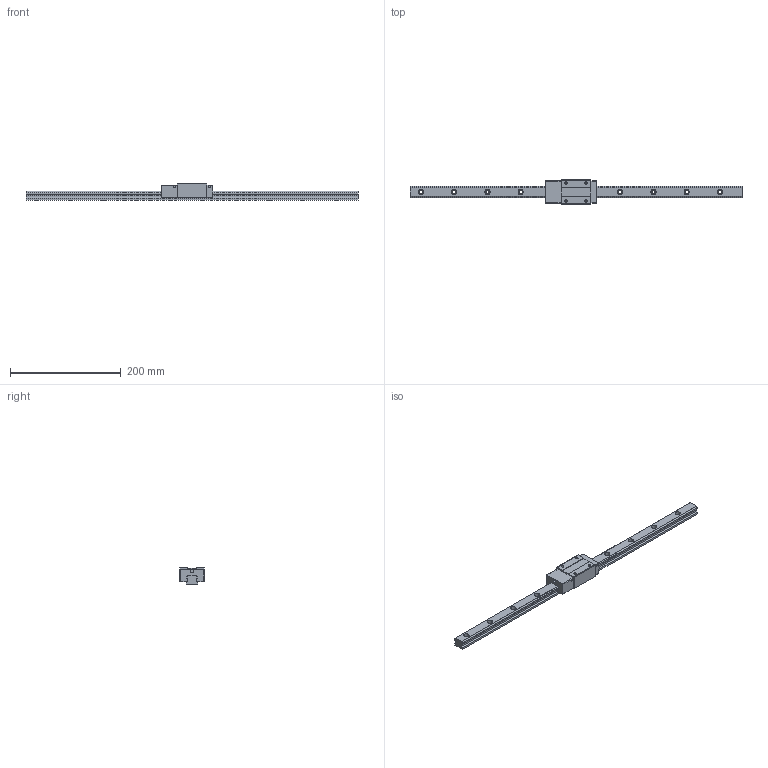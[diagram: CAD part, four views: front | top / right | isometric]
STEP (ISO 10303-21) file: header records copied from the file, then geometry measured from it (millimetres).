
FILE_DESCRIPTION (( 'STEP AP203' ), '1' );
FILE_NAME ('TRH20VN-BN.STEP', '2024-07-10T03:50:21', ( '' ), ( '' ), 'SwSTEP 2.0', 'SolidWorks 2022', '' );
FILE_SCHEMA (( 'CONFIG_CONTROL_DESIGN' ));
Length unit declared in the file: millimetre
Products named in the file (1): TRH20VN-BN
Bounding box: 600 x 44 x 30 mm (x, y, z)
Volume: 244070.1 mm3; surface area: 67065 mm2
Topology: 2 solids, 2 shells, 196 faces, 512 edges, 332 vertices
Faces by surface type: cylinder 96, plane 84, cone 16
Entity records: 6127 total; most frequent: DIRECTION 1098, CARTESIAN_POINT 1033, ORIENTED_EDGE 1008, EDGE_CURVE 504, AXIS2_PLACEMENT_3D 397, VERTEX_POINT 332, VECTOR 304, LINE 304
